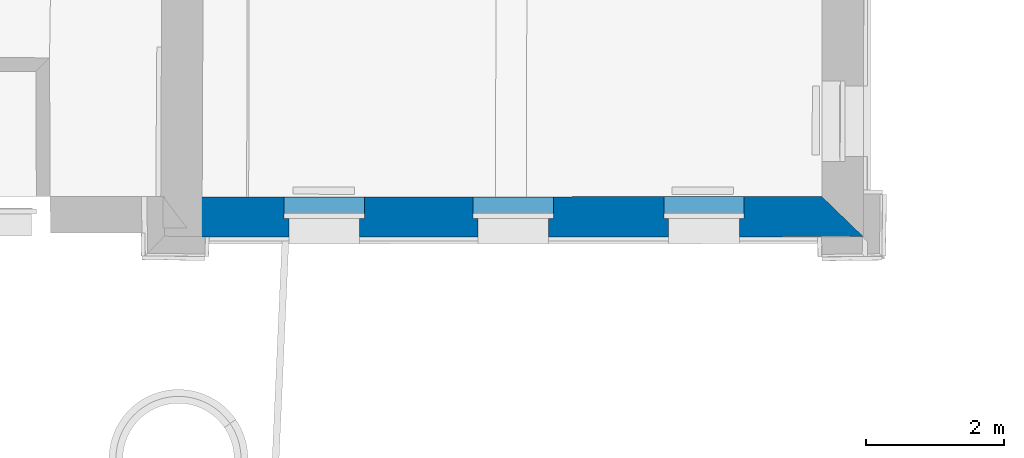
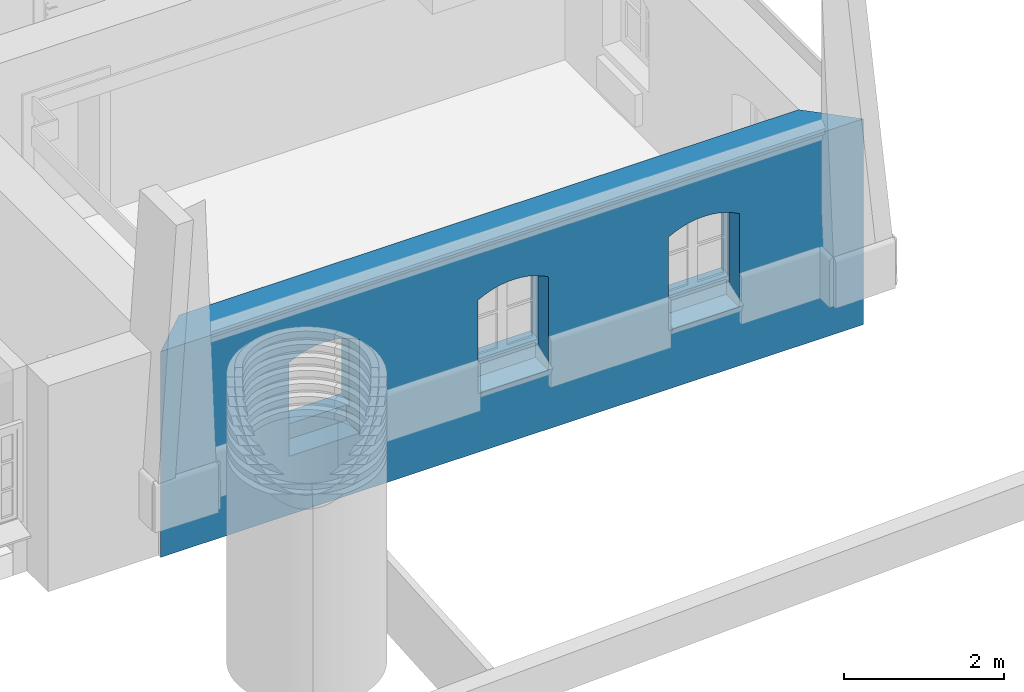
# One storey, part 52 of 196: 1 wall, 3 openings.
"""IFC2X3 building model written with IfcOpenShell, lengths in metres."""

from ifc_helpers import new_model, entity, si_unit, converted_unit, derived_unit, money_unit, direction, frame, origin_with_axes, origin_2d_with_axis, place, context, subcontext, project, spatial, polyline, rectangle, outline, extrude, material, layer, layer_set, layer_usage, type_object, element, save


model = new_model("IFC2X3")

# Units and contexts
model_context = context("Model", 3, precision=1e-05, world=origin_with_axes(), true_north=direction((0.0, 1.0)))
body_context = subcontext(model_context, "Body", "Model", "MODEL_VIEW")
ifc_project = project(units=[si_unit("LENGTHUNIT", "METRE"), si_unit("AREAUNIT", "SQUARE_METRE"), si_unit("VOLUMEUNIT", "CUBIC_METRE"), converted_unit("PLANEANGLEUNIT", "DEGREE", entity("IfcPlaneAngleMeasure", 0.0174532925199), si_unit("PLANEANGLEUNIT", "RADIAN"), dimensions=[0, 0, 0, 0, 0, 0, 0]), money_unit("EUR"), converted_unit("TIMEUNIT", "Year", entity("IfcTimeMeasure", 31556926.0), si_unit("TIMEUNIT", "SECOND"), dimensions=[0, 0, 1, 0, 0, 0, 0]), si_unit("MASSUNIT", "GRAM", prefix="KILO"), si_unit("THERMODYNAMICTEMPERATUREUNIT", "DEGREE_CELSIUS"), si_unit("LUMINOUSINTENSITYUNIT", "LUMEN"), si_unit("ENERGYUNIT", "JOULE", prefix="MEGA"), derived_unit("THERMALCONDUCTANCEUNIT", [(si_unit("POWERUNIT", "WATT"), 1), (si_unit("LENGTHUNIT", "METRE"), -1), (si_unit("THERMODYNAMICTEMPERATUREUNIT", "KELVIN"), -1)]), derived_unit("SPECIFICHEATCAPACITYUNIT", [(si_unit("ENERGYUNIT", "JOULE"), 1), (si_unit("MASSUNIT", "GRAM", prefix="KILO"), -1), (si_unit("THERMODYNAMICTEMPERATUREUNIT", "KELVIN"), -1)]), derived_unit("MASSDENSITYUNIT", [(si_unit("MASSUNIT", "GRAM", prefix="KILO"), 1), (si_unit("VOLUMEUNIT", "CUBIC_METRE"), -1)])], contexts=[model_context])

# Site, building, storey
site_placement = place(None, origin_with_axes())
site = spatial("IfcSite", under=ifc_project, at=site_placement, Name="Gelände", CompositionType="ELEMENT")
building_placement = place(site_placement, origin_with_axes())
building = spatial("IfcBuilding", under=site, at=building_placement, Name="Gebäude", CompositionType="ELEMENT")
storey_placement = place(building_placement, frame((0.0, 0.0, -3.0), z_axis=(0.0, 0.0, 1.0), x_axis=(1.0, 0.0, 0.0)))
storey = spatial("IfcBuildingStorey", under=building, at=storey_placement, Name="KELLERGESCHOSS", CompositionType="ELEMENT", Elevation=-3.0)

# Wall, openings
ifc_material = material(Name="05_ALLGEMEIN - TRAGENDE BAUTEILE")
ifc_layer = layer(ifc_material, 0.58, ventilated="UNKNOWN")
ifc_layer_set = layer_set([ifc_layer], Name="05_ALLGEMEIN - TRAGENDE BAUTEILE 0.58")
ifc_layer_usage = layer_usage(ifc_layer_set, "AXIS2", "NEGATIVE", 0.58)
wall_type = type_object("IfcWallType", Name="05_ALLGEMEIN - TRAGENDE BAUTEILE 580", PredefinedType="ELEMENTEDWALL")
wall_placement = place(storey_placement, frame((21.9361632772, 9.88891783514, -0.36), z_axis=(0.0, 0.0, 1.0), x_axis=(0.999999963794, 0.000269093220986, 0.0)))
wall = element("IfcWallStandardCase", 1, at=wall_placement, inside=storey, type_object=wall_type, material=ifc_layer_usage, Name="Wand-036", ObjectType="ELEMENTEDWALL", context=body_context, shape_type="SweptSolid", body=[
    extrude(outline(polyline([(0.0, 0.0), (10.1770268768, 0.0), (9.57762495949, 0.58), (0.602611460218, 0.58), (0.0, 0.0)])), origin_with_axes(), (0.0, 0.0, 1.0), 3.15),
])
opening_1_placement = place(wall_placement, frame((7.86946591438, 0.0, 1.12816901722), z_axis=(0.0, 0.0, 1.0), x_axis=(1.0, 0.0, 0.0)))
element("IfcOpeningElement", 2, at=opening_1_placement, cuts=wall, Name="Fenster-015", context=body_context, shape_type="SweptSolid", body=[
    extrude(outline(polyline([(0.581905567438, 0.0), (0.581905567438, 1.24), (0.492757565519, 1.28983700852), (0.399379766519, 1.33120946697), (0.302573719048, 1.36376223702), (0.203170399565, 1.38721588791), (0.102023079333, 1.40136909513), (0.0, 1.40610036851), (-0.102023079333, 1.40136909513), (-0.203170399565, 1.38721588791), (-0.302573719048, 1.36376223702), (-0.399379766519, 1.33120946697), (-0.492757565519, 1.28983700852), (-0.581905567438, 1.24), (-0.581905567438, 0.0), (0.581905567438, 0.0)])), frame((0.0, 0.266646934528, 0.0), z_axis=(0.0, -1.0, 0.0), x_axis=(1.0, 0.0, 0.0)), (0.0, 0.0, -1.0), 0.893353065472),
    extrude(outline(polyline([(-0.511905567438, 0.0), (-0.511905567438, -1.20024398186), (-0.416293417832, -1.24844467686), (-0.316202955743, -1.28648267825), (-0.212710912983, -1.31394878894), (-0.106930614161, -1.33054753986), (0.0, -1.33610036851), (0.106930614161, -1.33054753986), (0.212710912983, -1.31394878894), (0.316202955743, -1.28648267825), (0.416293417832, -1.24844467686), (0.511905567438, -1.20024398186), (0.511905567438, 0.0), (-0.511905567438, 0.0)])), frame((0.0, 0.266646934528, 0.0), z_axis=(0.0, 1.0, 0.0), x_axis=(1.0, 0.0, 0.0)), (0.0, 0.0, -1.0), 0.846646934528),
    extrude(rectangle(XDim=1.02381113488, YDim=0.232032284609, at=origin_2d_with_axis()), frame((0.0, 0.327689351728, -0.116016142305), z_axis=(0.0, 1.0, 0.0), x_axis=(1.0, 0.0, 0.0)), (0.0, 0.0, -1.0), 0.641042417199),
])
opening_2_placement = place(wall_placement, frame((2.36948133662, 0.0, 1.12816901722), z_axis=(0.0, 0.0, 1.0), x_axis=(1.0, 0.0, 0.0)))
element("IfcOpeningElement", 3, at=opening_2_placement, cuts=wall, Name="Fenster-015", context=body_context, shape_type="SweptSolid", body=[
    extrude(outline(polyline([(0.581905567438, 0.0), (0.581905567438, 1.24), (0.492757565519, 1.28983700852), (0.399379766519, 1.33120946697), (0.302573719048, 1.36376223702), (0.203170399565, 1.38721588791), (0.102023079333, 1.40136909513), (0.0, 1.40610036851), (-0.102023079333, 1.40136909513), (-0.203170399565, 1.38721588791), (-0.302573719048, 1.36376223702), (-0.399379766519, 1.33120946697), (-0.492757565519, 1.28983700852), (-0.581905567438, 1.24), (-0.581905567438, 0.0), (0.581905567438, 0.0)])), frame((0.0, 0.266646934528, 0.0), z_axis=(0.0, -1.0, 0.0), x_axis=(1.0, 0.0, 0.0)), (0.0, 0.0, -1.0), 0.893353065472),
    extrude(outline(polyline([(-0.511905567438, 0.0), (-0.511905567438, -1.20024398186), (-0.416293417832, -1.24844467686), (-0.316202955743, -1.28648267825), (-0.212710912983, -1.31394878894), (-0.106930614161, -1.33054753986), (0.0, -1.33610036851), (0.106930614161, -1.33054753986), (0.212710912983, -1.31394878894), (0.316202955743, -1.28648267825), (0.416293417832, -1.24844467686), (0.511905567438, -1.20024398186), (0.511905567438, 0.0), (-0.511905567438, 0.0)])), frame((0.0, 0.266646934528, 0.0), z_axis=(0.0, 1.0, 0.0), x_axis=(1.0, 0.0, 0.0)), (0.0, 0.0, -1.0), 0.846646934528),
    extrude(rectangle(XDim=1.02381113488, YDim=0.232032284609, at=origin_2d_with_axis()), frame((0.0, 0.327689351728, -0.116016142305), z_axis=(0.0, 1.0, 0.0), x_axis=(1.0, 0.0, 0.0)), (0.0, 0.0, -1.0), 0.641042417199),
])
opening_3_placement = place(wall_placement, frame((5.10802906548, 0.0, 1.12816901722), z_axis=(0.0, 0.0, 1.0), x_axis=(1.0, 0.0, 0.0)))
element("IfcOpeningElement", 4, at=opening_3_placement, cuts=wall, Name="Fenster-015", context=body_context, shape_type="SweptSolid", body=[
    extrude(outline(polyline([(0.581905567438, 0.0), (0.581905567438, 1.24), (0.492757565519, 1.28983700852), (0.399379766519, 1.33120946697), (0.302573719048, 1.36376223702), (0.203170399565, 1.38721588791), (0.102023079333, 1.40136909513), (0.0, 1.40610036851), (-0.102023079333, 1.40136909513), (-0.203170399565, 1.38721588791), (-0.302573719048, 1.36376223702), (-0.399379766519, 1.33120946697), (-0.492757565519, 1.28983700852), (-0.581905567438, 1.24), (-0.581905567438, 0.0), (0.581905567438, 0.0)])), frame((0.0, 0.266646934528, 0.0), z_axis=(0.0, -1.0, 0.0), x_axis=(1.0, 0.0, 0.0)), (0.0, 0.0, -1.0), 0.893353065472),
    extrude(outline(polyline([(-0.511905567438, 0.0), (-0.511905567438, -1.20024398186), (-0.416293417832, -1.24844467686), (-0.316202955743, -1.28648267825), (-0.212710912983, -1.31394878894), (-0.106930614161, -1.33054753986), (0.0, -1.33610036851), (0.106930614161, -1.33054753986), (0.212710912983, -1.31394878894), (0.316202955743, -1.28648267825), (0.416293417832, -1.24844467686), (0.511905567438, -1.20024398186), (0.511905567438, 0.0), (-0.511905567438, 0.0)])), frame((0.0, 0.266646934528, 0.0), z_axis=(0.0, 1.0, 0.0), x_axis=(1.0, 0.0, 0.0)), (0.0, 0.0, -1.0), 0.846646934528),
    extrude(rectangle(XDim=1.02381113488, YDim=0.232032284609, at=origin_2d_with_axis()), frame((0.0, 0.327689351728, -0.116016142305), z_axis=(0.0, 1.0, 0.0), x_axis=(1.0, 0.0, 0.0)), (0.0, 0.0, -1.0), 0.641042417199),
])

save(model, "model.ifc")
